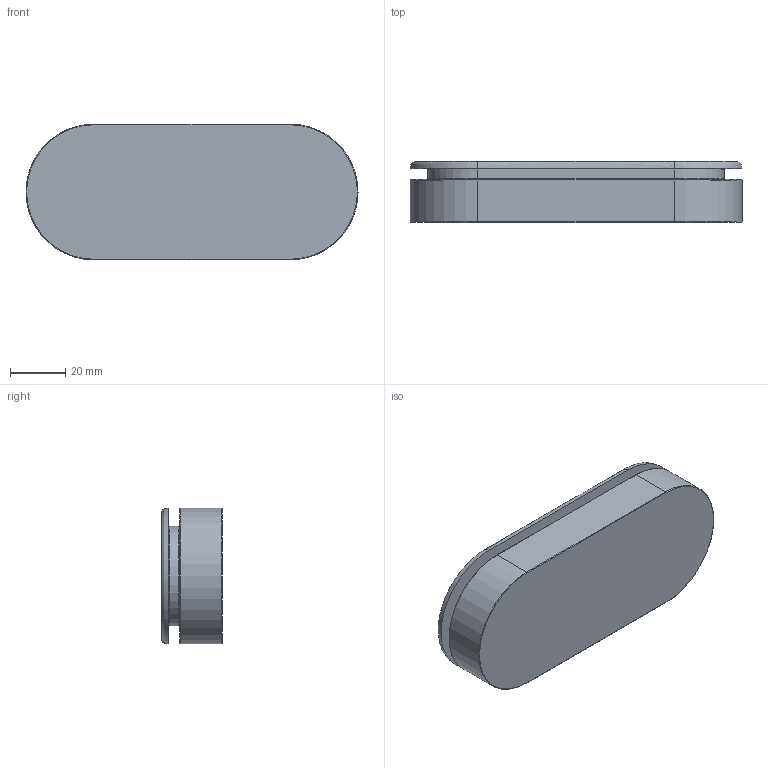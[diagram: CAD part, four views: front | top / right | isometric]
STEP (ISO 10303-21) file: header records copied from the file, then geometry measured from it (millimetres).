
FILE_DESCRIPTION (( 'STEP AP203' ), '1' );
FILE_NAME ('SK4-018-1B.STEP', '2018-11-02T05:10:50', ( 'admin' ), ( 'Microsoft' ), 'SwSTEP 2.0', 'SolidWorks 2015', '' );
FILE_SCHEMA (( 'CONFIG_CONTROL_DESIGN' ));
Length unit declared in the file: millimetre
Products named in the file (1): SK4-018-1B
Bounding box: 120 x 22 x 49 mm (x, y, z)
Volume: 37159.7 mm3; surface area: 28874.7 mm2
Topology: 1 solids, 1 shells, 248 faces, 632 edges, 412 vertices
Faces by surface type: plane 155, bspline 63, cylinder 18, torus 12
Entity records: 12035 total; most frequent: CARTESIAN_POINT 6392, ORIENTED_EDGE 1264, DIRECTION 918, EDGE_CURVE 632, VECTOR 450, LINE 450, VERTEX_POINT 412, EDGE_LOOP 274
